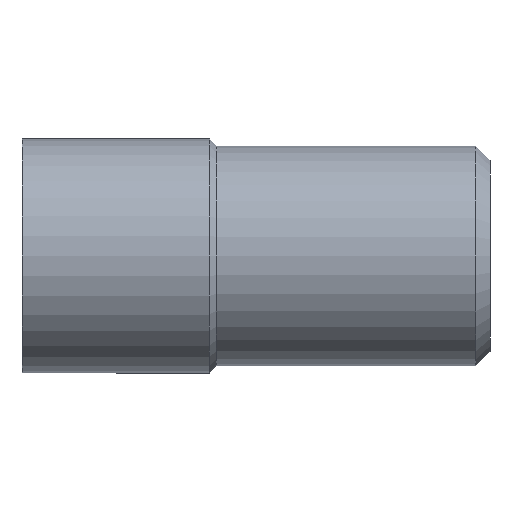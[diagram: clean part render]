
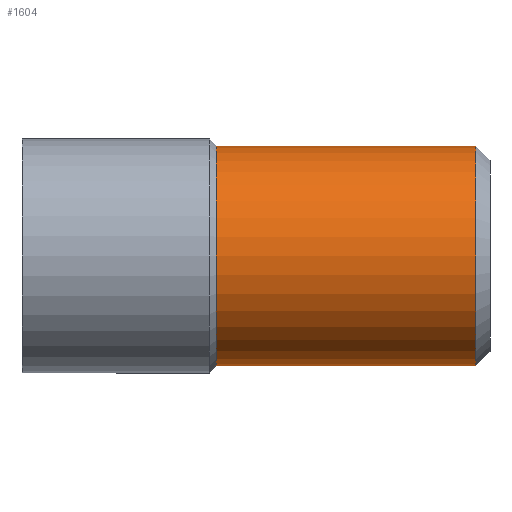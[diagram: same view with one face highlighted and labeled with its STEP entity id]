
A CAD part, left-side view. The second image highlights one B-rep face of the part: STEP entity #1604.
In plain terms, the highlighted cylindrical face has radius 2.35 mm (diameter 4.7 mm), a partial arc.
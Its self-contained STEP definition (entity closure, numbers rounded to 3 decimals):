
#45 = FACE_OUTER_BOUND ( 'NONE', #602, .T. ) ;
#116 = LINE ( 'NONE', #6774, #5205 ) ;
#435 = CARTESIAN_POINT ( 'NONE',  ( 0., -9.7, 0. ) ) ;
#502 = CARTESIAN_POINT ( 'NONE',  ( 0., -9.7, -2.35 ) ) ;
#602 = EDGE_LOOP ( 'NONE', ( #6069, #7588, #5875, #2465 ) ) ;
#844 = AXIS2_PLACEMENT_3D ( 'NONE', #3211, #7722, #3852 ) ;
#999 = DIRECTION ( 'NONE',  ( 0., 1., 0. ) ) ;
#1075 = DIRECTION ( 'NONE',  ( 0., 0., 1. ) ) ;
#1604 = ADVANCED_FACE ( 'NONE', ( #45 ), #6441, .T. ) ;
#1609 = DIRECTION ( 'NONE',  ( 0., 0., 1. ) ) ;
#1861 = EDGE_CURVE ( 'NONE', #2655, #7995, #5021, .T. ) ;
#2130 = VERTEX_POINT ( 'NONE', #5384 ) ;
#2465 = ORIENTED_EDGE ( 'NONE', *, *, #1861, .F. ) ;
#2655 = VERTEX_POINT ( 'NONE', #7040 ) ;
#2791 = VECTOR ( 'NONE', #6963, 1000. ) ;
#3211 = CARTESIAN_POINT ( 'NONE',  ( 0., -4.15, 0. ) ) ;
#3770 = CARTESIAN_POINT ( 'NONE',  ( 0., 3.29, -2.35 ) ) ;
#3852 = DIRECTION ( 'NONE',  ( 0., 0., 1. ) ) ;
#3974 = AXIS2_PLACEMENT_3D ( 'NONE', #8022, #999, #1609 ) ;
#4355 = EDGE_CURVE ( 'NONE', #2130, #7995, #116, .T. ) ;
#4885 = DIRECTION ( 'NONE',  ( 0., 1., 0. ) ) ;
#5021 = CIRCLE ( 'NONE', #844, 2.35 ) ;
#5205 = VECTOR ( 'NONE', #7430, 1000. ) ;
#5384 = CARTESIAN_POINT ( 'NONE',  ( 0., -9.7, 2.35 ) ) ;
#5417 = CIRCLE ( 'NONE', #7836, 2.35 ) ;
#5875 = ORIENTED_EDGE ( 'NONE', *, *, #4355, .T. ) ;
#6069 = ORIENTED_EDGE ( 'NONE', *, *, #6822, .F. ) ;
#6166 = CARTESIAN_POINT ( 'NONE',  ( 0., -4.15, 2.35 ) ) ;
#6441 = CYLINDRICAL_SURFACE ( 'NONE', #3974, 2.35 ) ;
#6634 = EDGE_CURVE ( 'NONE', #6960, #2130, #5417, .T. ) ;
#6774 = CARTESIAN_POINT ( 'NONE',  ( 0., 3.29, 2.35 ) ) ;
#6822 = EDGE_CURVE ( 'NONE', #6960, #2655, #7918, .T. ) ;
#6960 = VERTEX_POINT ( 'NONE', #502 ) ;
#6963 = DIRECTION ( 'NONE',  ( 0., 1., 0. ) ) ;
#7040 = CARTESIAN_POINT ( 'NONE',  ( 0., -4.15, -2.35 ) ) ;
#7430 = DIRECTION ( 'NONE',  ( 0., 1., 0. ) ) ;
#7588 = ORIENTED_EDGE ( 'NONE', *, *, #6634, .T. ) ;
#7722 = DIRECTION ( 'NONE',  ( 0., 1., 0. ) ) ;
#7836 = AXIS2_PLACEMENT_3D ( 'NONE', #435, #4885, #1075 ) ;
#7918 = LINE ( 'NONE', #3770, #2791 ) ;
#7995 = VERTEX_POINT ( 'NONE', #6166 ) ;
#8022 = CARTESIAN_POINT ( 'NONE',  ( 0., 3.29, 0. ) ) ;
